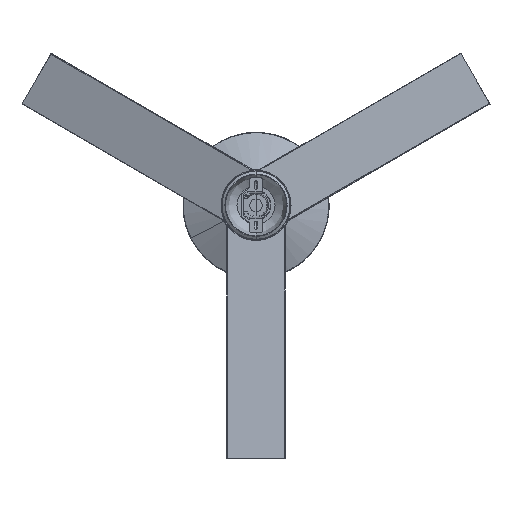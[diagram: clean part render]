
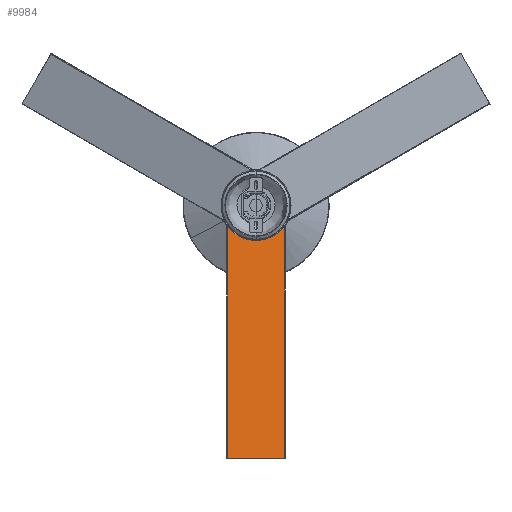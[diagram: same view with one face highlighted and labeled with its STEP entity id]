
A CAD part, top view. The second image highlights one B-rep face of the part: STEP entity #9984.
In plain terms, the highlighted planar face has unit normal (0.225, 0, 0.974).
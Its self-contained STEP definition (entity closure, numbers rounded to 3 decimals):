
#231=FACE_BOUND('',#11522,.T.);
#232=FACE_BOUND('',#11523,.T.);
#233=FACE_BOUND('',#11524,.T.);
#636=PLANE('',#28150);
#1555=TRIMMED_CURVE($,#2568,(#54117),(#54118),.T.,.CARTESIAN.);
#1556=TRIMMED_CURVE($,#2569,(#54120),(#54121),.T.,.CARTESIAN.);
#1557=TRIMMED_CURVE($,#2570,(#54123),(#54124),.T.,.CARTESIAN.);
#1558=TRIMMED_CURVE($,#2571,(#54126),(#54127),.T.,.CARTESIAN.);
#1559=TRIMMED_CURVE($,#2572,(#54129),(#54130),.T.,.CARTESIAN.);
#1560=TRIMMED_CURVE($,#2573,(#54132),(#54133),.T.,.CARTESIAN.);
#1561=TRIMMED_CURVE($,#2574,(#54135),(#54136),.T.,.CARTESIAN.);
#2568=CIRCLE('',#28151,53.78);
#2569=CIRCLE('',#28152,2.5);
#2570=CIRCLE('',#28153,2.5);
#2571=CIRCLE('',#28154,2.5);
#2572=CIRCLE('',#28155,2.5);
#2573=CIRCLE('',#28156,2.5);
#2574=CIRCLE('',#28157,2.5);
#9984=ADVANCED_FACE('',(#10728,#231,#232,#233),#636,.T.);
#10728=FACE_OUTER_BOUND('',#11521,.T.);
#11521=EDGE_LOOP('',(#15434,#15435,#15436,#15437,#15438,#15439));
#11522=EDGE_LOOP('',(#15440,#15441));
#11523=EDGE_LOOP('',(#15442,#15443));
#11524=EDGE_LOOP('',(#15444,#15445));
#15434=ORIENTED_EDGE('',*,*,#19377,.T.);
#15435=ORIENTED_EDGE('',*,*,#19378,.T.);
#15436=ORIENTED_EDGE('',*,*,#19379,.T.);
#15437=ORIENTED_EDGE('',*,*,#19370,.T.);
#15438=ORIENTED_EDGE('',*,*,#19380,.T.);
#15439=ORIENTED_EDGE('',*,*,#19381,.T.);
#15440=ORIENTED_EDGE('',*,*,#19375,.T.);
#15441=ORIENTED_EDGE('',*,*,#19376,.T.);
#15442=ORIENTED_EDGE('',*,*,#19373,.T.);
#15443=ORIENTED_EDGE('',*,*,#19374,.T.);
#15444=ORIENTED_EDGE('',*,*,#19371,.T.);
#15445=ORIENTED_EDGE('',*,*,#19372,.T.);
#19370=EDGE_CURVE('',#26015,#26016,#1555,.T.);
#19371=EDGE_CURVE('',#26017,#26018,#1556,.T.);
#19372=EDGE_CURVE('',#26018,#26017,#1557,.T.);
#19373=EDGE_CURVE('',#26019,#26020,#1558,.T.);
#19374=EDGE_CURVE('',#26020,#26019,#1559,.T.);
#19375=EDGE_CURVE('',#26021,#26022,#1560,.T.);
#19376=EDGE_CURVE('',#26022,#26021,#1561,.T.);
#19377=EDGE_CURVE('',#26023,#26024,#22238,.T.);
#19378=EDGE_CURVE('',#26024,#26025,#22239,.T.);
#19379=EDGE_CURVE('',#26025,#26015,#22240,.T.);
#19380=EDGE_CURVE('',#26016,#26026,#22241,.T.);
#19381=EDGE_CURVE('',#26026,#26023,#22242,.T.);
#22238=B_SPLINE_CURVE_WITH_KNOTS('',1,(#54137,#54138),.UNSPECIFIED.,.F.,
 .F.,(2,2),(0.,123.),.UNSPECIFIED.);
#22239=B_SPLINE_CURVE_WITH_KNOTS('',1,(#54139,#54140),.UNSPECIFIED.,.F.,
 .F.,(2,2),(0.,499.99),.UNSPECIFIED.);
#22240=B_SPLINE_CURVE_WITH_KNOTS('',1,(#54141,#54142),.UNSPECIFIED.,.F.,
 .F.,(2,2),(0.,16.315),.UNSPECIFIED.);
#22241=B_SPLINE_CURVE_WITH_KNOTS('',1,(#54143,#54144),.UNSPECIFIED.,.F.,
 .F.,(2,2),(0.,14.435),.UNSPECIFIED.);
#22242=B_SPLINE_CURVE_WITH_KNOTS('',1,(#54145,#54146),.UNSPECIFIED.,.F.,
 .F.,(2,2),(0.,499.99),.UNSPECIFIED.);
#26015=VERTEX_POINT('',#54104);
#26016=VERTEX_POINT('',#54105);
#26017=VERTEX_POINT('',#54106);
#26018=VERTEX_POINT('',#54107);
#26019=VERTEX_POINT('',#54108);
#26020=VERTEX_POINT('',#54109);
#26021=VERTEX_POINT('',#54110);
#26022=VERTEX_POINT('',#54111);
#26023=VERTEX_POINT('',#54112);
#26024=VERTEX_POINT('',#54113);
#26025=VERTEX_POINT('',#54114);
#26026=VERTEX_POINT('',#54115);
#28150=AXIS2_PLACEMENT_3D('',#54103,#30751,$);
#28151=AXIS2_PLACEMENT_3D($,#54116,#30752,#30753);
#28152=AXIS2_PLACEMENT_3D($,#54119,#30754,#30755);
#28153=AXIS2_PLACEMENT_3D($,#54122,#30756,#30757);
#28154=AXIS2_PLACEMENT_3D($,#54125,#30758,#30759);
#28155=AXIS2_PLACEMENT_3D($,#54128,#30760,#30761);
#28156=AXIS2_PLACEMENT_3D($,#54131,#30762,#30763);
#28157=AXIS2_PLACEMENT_3D($,#54134,#30764,#30765);
#30751=DIRECTION('',(0.225,0.,0.974));
#30752=DIRECTION('',(-0.225,0.,-0.974));
#30753=DIRECTION('',(0.836,-0.514,-0.193));
#30754=DIRECTION('',(-0.225,0.,-0.974));
#30755=DIRECTION('',(-0.974,0.,0.225));
#30756=DIRECTION('',(-0.225,0.,-0.974));
#30757=DIRECTION('',(0.974,0.,-0.225));
#30758=DIRECTION('',(-0.225,0.,-0.974));
#30759=DIRECTION('',(-0.974,0.,0.225));
#30760=DIRECTION('',(-0.225,0.,-0.974));
#30761=DIRECTION('',(0.974,0.,-0.225));
#30762=DIRECTION('',(-0.225,0.,-0.974));
#30763=DIRECTION('',(-0.974,0.,0.225));
#30764=DIRECTION('',(-0.225,0.,-0.974));
#30765=DIRECTION('',(0.974,0.,-0.225));
#54103=CARTESIAN_POINT('',(6801.171,-14037.469,52.056));
#54104=CARTESIAN_POINT('',(6773.149,-13487.361,58.525));
#54105=CARTESIAN_POINT('',(6683.264,-13487.361,79.277));
#54106=CARTESIAN_POINT('',(6680.389,-13504.646,79.941));
#54107=CARTESIAN_POINT('',(6685.261,-13504.646,78.816));
#54108=CARTESIAN_POINT('',(6725.512,-13524.372,69.523));
#54109=CARTESIAN_POINT('',(6730.384,-13524.372,68.398));
#54110=CARTESIAN_POINT('',(6770.51,-13504.523,59.135));
#54111=CARTESIAN_POINT('',(6775.382,-13504.523,58.01));
#54112=CARTESIAN_POINT('',(6669.198,-13987.35,82.524));
#54113=CARTESIAN_POINT('',(6789.046,-13987.35,54.855));
#54114=CARTESIAN_POINT('',(6789.046,-13487.361,54.855));
#54115=CARTESIAN_POINT('',(6669.198,-13487.361,82.524));
#54116=CARTESIAN_POINT('',(6728.206,-13459.706,68.901));
#54117=CARTESIAN_POINT('',(6773.149,-13487.361,58.525));
#54118=CARTESIAN_POINT('',(6683.264,-13487.361,79.277));
#54119=CARTESIAN_POINT('',(6682.825,-13504.646,79.378));
#54120=CARTESIAN_POINT('',(6680.389,-13504.646,79.941));
#54121=CARTESIAN_POINT('',(6685.261,-13504.646,78.816));
#54122=CARTESIAN_POINT('',(6682.825,-13504.646,79.378));
#54123=CARTESIAN_POINT('',(6685.261,-13504.646,78.816));
#54124=CARTESIAN_POINT('',(6680.389,-13504.646,79.941));
#54125=CARTESIAN_POINT('',(6727.948,-13524.372,68.961));
#54126=CARTESIAN_POINT('',(6725.512,-13524.372,69.523));
#54127=CARTESIAN_POINT('',(6730.384,-13524.372,68.398));
#54128=CARTESIAN_POINT('',(6727.948,-13524.372,68.961));
#54129=CARTESIAN_POINT('',(6730.384,-13524.372,68.398));
#54130=CARTESIAN_POINT('',(6725.512,-13524.372,69.523));
#54131=CARTESIAN_POINT('',(6772.946,-13504.523,58.572));
#54132=CARTESIAN_POINT('',(6770.51,-13504.523,59.135));
#54133=CARTESIAN_POINT('',(6775.382,-13504.523,58.01));
#54134=CARTESIAN_POINT('',(6772.946,-13504.523,58.572));
#54135=CARTESIAN_POINT('',(6775.382,-13504.523,58.01));
#54136=CARTESIAN_POINT('',(6770.51,-13504.523,59.135));
#54137=CARTESIAN_POINT('',(6669.198,-13987.35,82.524));
#54138=CARTESIAN_POINT('',(6789.046,-13987.35,54.855));
#54139=CARTESIAN_POINT('',(6789.046,-13987.35,54.855));
#54140=CARTESIAN_POINT('',(6789.046,-13487.361,54.855));
#54141=CARTESIAN_POINT('',(6789.046,-13487.361,54.855));
#54142=CARTESIAN_POINT('',(6773.149,-13487.361,58.525));
#54143=CARTESIAN_POINT('',(6683.264,-13487.361,79.277));
#54144=CARTESIAN_POINT('',(6669.198,-13487.361,82.524));
#54145=CARTESIAN_POINT('',(6669.198,-13487.361,82.524));
#54146=CARTESIAN_POINT('',(6669.198,-13987.35,82.524));
